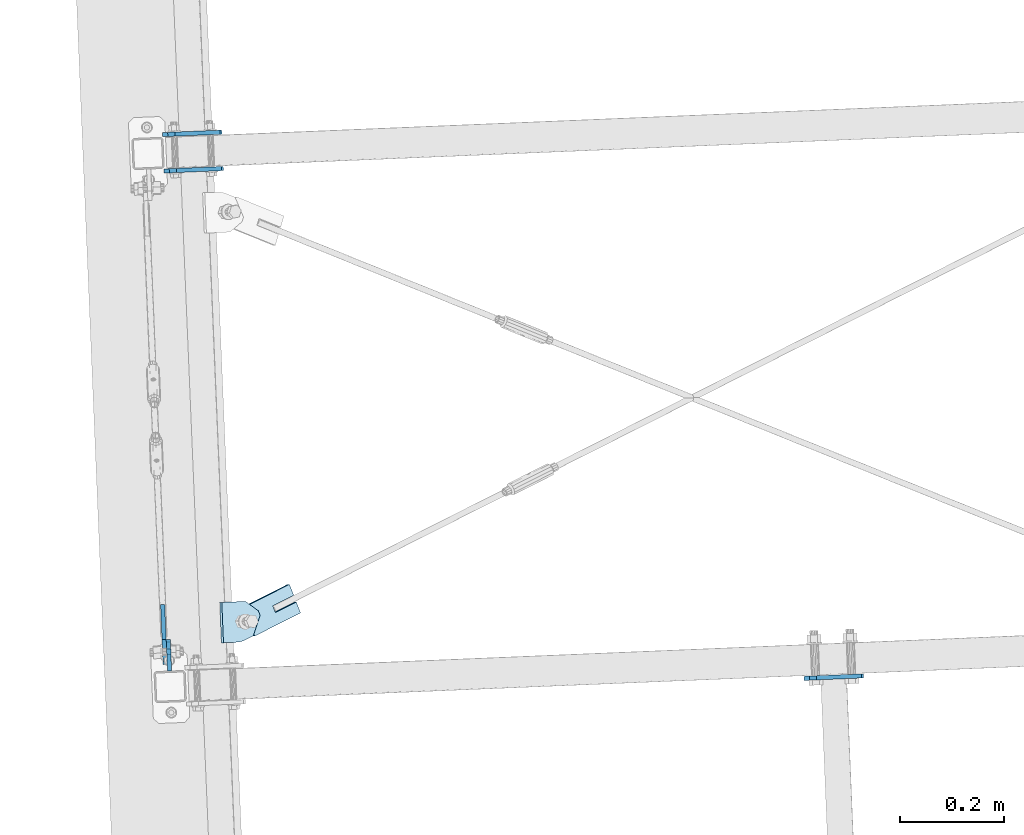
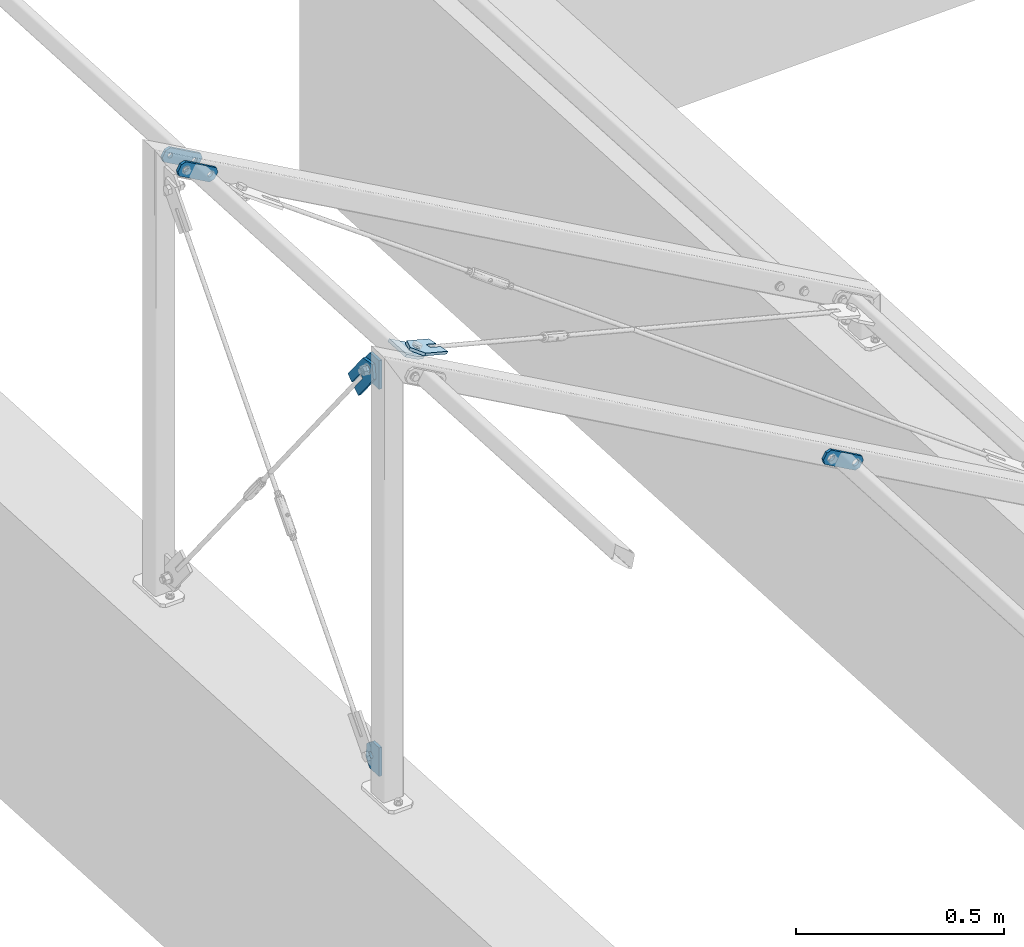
# One storey, part 48 of 288: 8 plates, 34 openings.
"""IFC2X3 building model written with IfcOpenShell, lengths in millimetres."""

from ifc_helpers import new_model, entity, si_unit, converted_unit, point, frame, frame_2d, origin, origin_with_axes, origin_2d_with_axis, place, context, project, spatial, polyline, circle_curve, line_curve, trimmed, segment, composite_curve, circle, outline, extrude, material, layer, layer_set, element, save


model = new_model("IFC2X3")

# Units and contexts
model_context = context("Model", 3, precision=1e-09, world=origin_with_axes())
ifc_project = project(units=[si_unit("LENGTHUNIT", "METRE", prefix="MILLI"), si_unit("AREAUNIT", "SQUARE_METRE"), si_unit("VOLUMEUNIT", "CUBIC_METRE"), converted_unit("PLANEANGLEUNIT", "DEGREE", entity("IfcPlaneAngleMeasure", 0.01745329), si_unit("PLANEANGLEUNIT", "RADIAN"), dimensions=[0, 0, 0, 0, 0, 0, 0])], contexts=[model_context])

# Site, building, storey
site_placement = place(None, origin_with_axes())
site = spatial("IfcSite", under=ifc_project, at=site_placement, Name="Remont ?wietlik?w nad MC w NCPP w Opolu", CompositionType="ELEMENT")
building_placement = place(site_placement, origin_with_axes())
building = spatial("IfcBuilding", under=site, at=building_placement, Name="Konstrukcja 1", CompositionType="ELEMENT")
storey_placement = place(building_placement, origin_with_axes())
storey = spatial("IfcBuildingStorey", under=building, at=storey_placement, Name="Default Storey", CompositionType="ELEMENT", Elevation=0.0)

# Plate, openings
ifc_material = material(Name="S235")
ifc_layer = layer(ifc_material, 8.0)
ifc_layer_set = layer_set([ifc_layer], Name="S235")
plate_1_placement = place(None, frame((-572.617317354, 11318.766140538, 1232.680270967), z_axis=(-0.041662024, 0.999131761, 1.7472e-05), x_axis=(0.499566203, 0.020815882, 0.866025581)))
plate_1 = element("IfcPlate", 1, at=plate_1_placement, inside=storey, material=ifc_layer_set, Name="-", ObjectType="-", context=model_context, shape_type="SweptSolid", body=[
    extrude(outline(polyline([(0.0, 0.0), (40.0, 0.0), (40.0, 120.0), (0.0, 120.0), (0.0, 0.0)])), origin_with_axes(), (0.0, 0.0, 1.0), 8.0),
])
opening_1_placement = place(plate_1_placement, frame((0.0, 0.0, -0.01), z_axis=(0.0, 0.0, 1.0), x_axis=(1.0, 0.0, 0.0)))
element("IfcOpeningElement", 2, at=opening_1_placement, cuts=plate_1, ObjectType="Opening", context=model_context, shape_type="SweptSolid", body=[
    extrude(outline(composite_curve([segment(trimmed(line_curve((40.0, 0.0), (0.0, 1.0), 10.0), [point((40.0, 0.0))], [point((40.0, 10.0))], True, "CARTESIAN"), True, "CONTINUOUS"), segment(trimmed(circle_curve(frame_2d((30.0, 10.0), x_axis=(-1.0, 0.0)), 10.0), [point((40.0, 10.0))], [point((30.0, 0.0))], False, "CARTESIAN"), True, "CONTINUOUS"), segment(trimmed(line_curve((30.0, 0.0), (1.0, 0.0), 10.0), [point((30.0, 0.0))], [point((40.0, 0.0))], True, "CARTESIAN"), True, "CONTINUOUS")], self_intersect=False)), origin(), (0.0, 0.0, 1.0), 8.02),
])
opening_2_placement = place(plate_1_placement, frame((0.0, 0.0, -0.01), z_axis=(0.0, 0.0, 1.0), x_axis=(1.0, 0.0, 0.0)))
element("IfcOpeningElement", 3, at=opening_2_placement, cuts=plate_1, ObjectType="Opening", context=model_context, shape_type="SweptSolid", body=[
    extrude(outline(composite_curve([segment(trimmed(line_curve((0.0, 0.0), (1.0, 0.0), 10.0), [point((0.0, 0.0))], [point((10.0, 0.0))], True, "CARTESIAN"), True, "CONTINUOUS"), segment(trimmed(circle_curve(frame_2d((10.0, 10.0), x_axis=(-1.0, 0.0)), 10.0), [point((10.0, 0.0))], [point((0.0, 10.0))], False, "CARTESIAN"), True, "CONTINUOUS"), segment(trimmed(line_curve((0.0, 10.0), (0.0, -1.0), 10.0), [point((0.0, 10.0))], [point((0.0, 0.0))], True, "CARTESIAN"), True, "CONTINUOUS")], self_intersect=False)), origin(), (0.0, 0.0, 1.0), 8.02),
])
opening_3_placement = place(plate_1_placement, frame((0.0, 0.0, -0.01), z_axis=(0.0, 0.0, 1.0), x_axis=(1.0, 0.0, 0.0)))
element("IfcOpeningElement", 4, at=opening_3_placement, cuts=plate_1, ObjectType="Opening", context=model_context, shape_type="SweptSolid", body=[
    extrude(outline(composite_curve([segment(trimmed(line_curve((40.0, 120.0), (-1.0, 0.0), 10.0), [point((40.0, 120.0))], [point((30.0, 120.0))], True, "CARTESIAN"), True, "CONTINUOUS"), segment(trimmed(circle_curve(frame_2d((30.0, 110.0), x_axis=(-1.0, 0.0)), 10.0), [point((30.0, 120.0))], [point((40.0, 110.0))], False, "CARTESIAN"), True, "CONTINUOUS"), segment(trimmed(line_curve((40.0, 110.0), (0.0, 1.0), 10.0), [point((40.0, 110.0))], [point((40.0, 120.0))], True, "CARTESIAN"), True, "CONTINUOUS")], self_intersect=False)), origin(), (0.0, 0.0, 1.0), 8.02),
])
opening_4_placement = place(plate_1_placement, frame((0.0, 0.0, -0.01), z_axis=(0.0, 0.0, 1.0), x_axis=(1.0, 0.0, 0.0)))
element("IfcOpeningElement", 5, at=opening_4_placement, cuts=plate_1, ObjectType="Opening", context=model_context, shape_type="SweptSolid", body=[
    extrude(outline(composite_curve([segment(trimmed(line_curve((0.0, 120.0), (0.0, -1.0), 10.0), [point((0.0, 120.0))], [point((0.0, 110.0))], True, "CARTESIAN"), True, "CONTINUOUS"), segment(trimmed(circle_curve(frame_2d((10.0, 110.0), x_axis=(-1.0, 0.0)), 10.0), [point((0.0, 110.0))], [point((10.0, 120.0))], False, "CARTESIAN"), True, "CONTINUOUS"), segment(trimmed(line_curve((10.0, 120.0), (-1.0, 0.0), 10.0), [point((10.0, 120.0))], [point((0.0, 120.0))], True, "CARTESIAN"), True, "CONTINUOUS")], self_intersect=False)), origin(), (0.0, 0.0, 1.0), 8.02),
])
opening_5_placement = place(plate_1_placement, frame((19.998425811, 27.001033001, 8.499903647), z_axis=(-2.0054e-05, 4.2e-07, 1.0), x_axis=(1.0, 0.0, 2.0054e-05)))
element("IfcOpeningElement", 6, at=opening_5_placement, cuts=plate_1, ObjectType="Opening", context=model_context, shape_type="SweptSolid", body=[
    extrude(circle(Radius=7.001, at=frame_2d((-4e-09, -7.001), x_axis=(1.0, 0.0))), origin(), (0.0, 0.0, -1.0), 9.000033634),
])
opening_6_placement = place(plate_1_placement, frame((19.998425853, 107.001033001, 8.499870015), z_axis=(-2.0054e-05, 4.2e-07, 1.0), x_axis=(1.0, 0.0, 2.0054e-05)))
element("IfcOpeningElement", 7, at=opening_6_placement, cuts=plate_1, ObjectType="Opening", context=model_context, shape_type="SweptSolid", body=[
    extrude(circle(Radius=7.001, at=frame_2d((-4e-09, -7.001), x_axis=(1.0, 0.0))), origin(), (0.0, 0.0, -1.0), 9.000033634),
])

plate_2_placement = place(None, frame((-569.700975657, 11248.826917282, 1232.679047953), z_axis=(-0.041662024, 0.999131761, 1.7472e-05), x_axis=(0.499566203, 0.020815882, 0.866025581)))
plate_2 = element("IfcPlate", 8, at=plate_2_placement, inside=storey, material=ifc_layer_set, Name="-", ObjectType="-", context=model_context, shape_type="SweptSolid", body=[
    extrude(outline(polyline([(0.0, 0.0), (40.0, 0.0), (40.0, 120.0), (0.0, 120.0), (0.0, 0.0)])), origin_with_axes(), (0.0, 0.0, 1.0), 8.0),
])
opening_7_placement = place(plate_2_placement, frame((0.0, 0.0, -0.01), z_axis=(0.0, 0.0, 1.0), x_axis=(1.0, 0.0, 0.0)))
element("IfcOpeningElement", 9, at=opening_7_placement, cuts=plate_2, ObjectType="Opening", context=model_context, shape_type="SweptSolid", body=[
    extrude(outline(composite_curve([segment(trimmed(line_curve((40.0, 0.0), (0.0, 1.0), 10.0), [point((40.0, 0.0))], [point((40.0, 10.0))], True, "CARTESIAN"), True, "CONTINUOUS"), segment(trimmed(circle_curve(frame_2d((30.0, 10.0), x_axis=(-1.0, 0.0)), 10.0), [point((40.0, 10.0))], [point((30.0, 0.0))], False, "CARTESIAN"), True, "CONTINUOUS"), segment(trimmed(line_curve((30.0, 0.0), (1.0, 0.0), 10.0), [point((30.0, 0.0))], [point((40.0, 0.0))], True, "CARTESIAN"), True, "CONTINUOUS")], self_intersect=False)), origin(), (0.0, 0.0, 1.0), 8.02),
])
opening_8_placement = place(plate_2_placement, frame((0.0, 0.0, -0.01), z_axis=(0.0, 0.0, 1.0), x_axis=(1.0, 0.0, 0.0)))
element("IfcOpeningElement", 10, at=opening_8_placement, cuts=plate_2, ObjectType="Opening", context=model_context, shape_type="SweptSolid", body=[
    extrude(outline(composite_curve([segment(trimmed(line_curve((0.0, 0.0), (1.0, 0.0), 10.0), [point((0.0, 0.0))], [point((10.0, 0.0))], True, "CARTESIAN"), True, "CONTINUOUS"), segment(trimmed(circle_curve(frame_2d((10.0, 10.0), x_axis=(-1.0, 0.0)), 10.0), [point((10.0, 0.0))], [point((0.0, 10.0))], False, "CARTESIAN"), True, "CONTINUOUS"), segment(trimmed(line_curve((0.0, 10.0), (0.0, -1.0), 10.0), [point((0.0, 10.0))], [point((0.0, 0.0))], True, "CARTESIAN"), True, "CONTINUOUS")], self_intersect=False)), origin(), (0.0, 0.0, 1.0), 8.02),
])
opening_9_placement = place(plate_2_placement, frame((0.0, 0.0, -0.01), z_axis=(0.0, 0.0, 1.0), x_axis=(1.0, 0.0, 0.0)))
element("IfcOpeningElement", 11, at=opening_9_placement, cuts=plate_2, ObjectType="Opening", context=model_context, shape_type="SweptSolid", body=[
    extrude(outline(composite_curve([segment(trimmed(line_curve((40.0, 120.0), (-1.0, 0.0), 10.0), [point((40.0, 120.0))], [point((30.0, 120.0))], True, "CARTESIAN"), True, "CONTINUOUS"), segment(trimmed(circle_curve(frame_2d((30.0, 110.0), x_axis=(-1.0, 0.0)), 10.0), [point((30.0, 120.0))], [point((40.0, 110.0))], False, "CARTESIAN"), True, "CONTINUOUS"), segment(trimmed(line_curve((40.0, 110.0), (0.0, 1.0), 10.0), [point((40.0, 110.0))], [point((40.0, 120.0))], True, "CARTESIAN"), True, "CONTINUOUS")], self_intersect=False)), origin(), (0.0, 0.0, 1.0), 8.02),
])
opening_10_placement = place(plate_2_placement, frame((0.0, 0.0, -0.01), z_axis=(0.0, 0.0, 1.0), x_axis=(1.0, 0.0, 0.0)))
element("IfcOpeningElement", 12, at=opening_10_placement, cuts=plate_2, ObjectType="Opening", context=model_context, shape_type="SweptSolid", body=[
    extrude(outline(composite_curve([segment(trimmed(line_curve((0.0, 120.0), (0.0, -1.0), 10.0), [point((0.0, 120.0))], [point((0.0, 110.0))], True, "CARTESIAN"), True, "CONTINUOUS"), segment(trimmed(circle_curve(frame_2d((10.0, 110.0), x_axis=(-1.0, 0.0)), 10.0), [point((0.0, 110.0))], [point((10.0, 120.0))], False, "CARTESIAN"), True, "CONTINUOUS"), segment(trimmed(line_curve((10.0, 120.0), (-1.0, 0.0), 10.0), [point((10.0, 120.0))], [point((0.0, 120.0))], True, "CARTESIAN"), True, "CONTINUOUS")], self_intersect=False)), origin(), (0.0, 0.0, 1.0), 8.02),
])
opening_11_placement = place(plate_2_placement, frame((19.999829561, 27.001003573, 8.499903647), z_axis=(-2.0054e-05, 4.2e-07, 1.0), x_axis=(1.0, 0.0, 2.0054e-05)))
element("IfcOpeningElement", 13, at=opening_11_placement, cuts=plate_2, ObjectType="Opening", context=model_context, shape_type="SweptSolid", body=[
    extrude(circle(Radius=7.001, at=frame_2d((-4e-09, -7.001), x_axis=(1.0, 0.0))), origin(), (0.0, 0.0, -1.0), 9.000033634),
])
opening_12_placement = place(plate_2_placement, frame((19.999829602, 107.001003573, 8.499870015), z_axis=(-2.0054e-05, 4.2e-07, 1.0), x_axis=(1.0, 0.0, 2.0054e-05)))
element("IfcOpeningElement", 14, at=opening_12_placement, cuts=plate_2, ObjectType="Opening", context=model_context, shape_type="SweptSolid", body=[
    extrude(circle(Radius=7.001, at=frame_2d((-4e-09, -7.001), x_axis=(1.0, 0.0))), origin(), (0.0, 0.0, -1.0), 9.000033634),
])

plate_3_placement = place(None, frame((660.794930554, 10273.421751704, 546.473533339), z_axis=(-0.041662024, 0.999131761, 1.7472e-05), x_axis=(0.499566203, 0.020815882, 0.866025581)))
plate_3 = element("IfcPlate", 15, at=plate_3_placement, inside=storey, material=ifc_layer_set, Name="-", ObjectType="-", context=model_context, shape_type="SweptSolid", body=[
    extrude(outline(polyline([(0.0, 0.0), (40.0, 0.0), (40.0, 120.0), (0.0, 120.0), (0.0, 0.0)])), origin_with_axes(), (0.0, 0.0, 1.0), 8.0),
])
opening_13_placement = place(plate_3_placement, frame((0.0, 0.0, -0.01), z_axis=(0.0, 0.0, 1.0), x_axis=(1.0, 0.0, 0.0)))
element("IfcOpeningElement", 16, at=opening_13_placement, cuts=plate_3, ObjectType="Opening", context=model_context, shape_type="SweptSolid", body=[
    extrude(outline(composite_curve([segment(trimmed(line_curve((40.0, 0.0), (0.0, 1.0), 10.0), [point((40.0, 0.0))], [point((40.0, 10.0))], True, "CARTESIAN"), True, "CONTINUOUS"), segment(trimmed(circle_curve(frame_2d((30.0, 10.0), x_axis=(-1.0, 0.0)), 10.0), [point((40.0, 10.0))], [point((30.0, 0.0))], False, "CARTESIAN"), True, "CONTINUOUS"), segment(trimmed(line_curve((30.0, 0.0), (1.0, 0.0), 10.0), [point((30.0, 0.0))], [point((40.0, 0.0))], True, "CARTESIAN"), True, "CONTINUOUS")], self_intersect=False)), origin(), (0.0, 0.0, 1.0), 8.02),
])
opening_14_placement = place(plate_3_placement, frame((0.0, 0.0, -0.01), z_axis=(0.0, 0.0, 1.0), x_axis=(1.0, 0.0, 0.0)))
element("IfcOpeningElement", 17, at=opening_14_placement, cuts=plate_3, ObjectType="Opening", context=model_context, shape_type="SweptSolid", body=[
    extrude(outline(composite_curve([segment(trimmed(line_curve((0.0, 0.0), (1.0, 0.0), 10.0), [point((0.0, 0.0))], [point((10.0, 0.0))], True, "CARTESIAN"), True, "CONTINUOUS"), segment(trimmed(circle_curve(frame_2d((10.0, 10.0), x_axis=(-1.0, 0.0)), 10.0), [point((10.0, 0.0))], [point((0.0, 10.0))], False, "CARTESIAN"), True, "CONTINUOUS"), segment(trimmed(line_curve((0.0, 10.0), (0.0, -1.0), 10.0), [point((0.0, 10.0))], [point((0.0, 0.0))], True, "CARTESIAN"), True, "CONTINUOUS")], self_intersect=False)), origin(), (0.0, 0.0, 1.0), 8.02),
])
opening_15_placement = place(plate_3_placement, frame((0.0, 0.0, -0.01), z_axis=(0.0, 0.0, 1.0), x_axis=(1.0, 0.0, 0.0)))
element("IfcOpeningElement", 18, at=opening_15_placement, cuts=plate_3, ObjectType="Opening", context=model_context, shape_type="SweptSolid", body=[
    extrude(outline(composite_curve([segment(trimmed(line_curve((40.0, 120.0), (-1.0, 0.0), 10.0), [point((40.0, 120.0))], [point((30.0, 120.0))], True, "CARTESIAN"), True, "CONTINUOUS"), segment(trimmed(circle_curve(frame_2d((30.0, 110.0), x_axis=(-1.0, 0.0)), 10.0), [point((30.0, 120.0))], [point((40.0, 110.0))], False, "CARTESIAN"), True, "CONTINUOUS"), segment(trimmed(line_curve((40.0, 110.0), (0.0, 1.0), 10.0), [point((40.0, 110.0))], [point((40.0, 120.0))], True, "CARTESIAN"), True, "CONTINUOUS")], self_intersect=False)), origin(), (0.0, 0.0, 1.0), 8.02),
])
opening_16_placement = place(plate_3_placement, frame((0.0, 0.0, -0.01), z_axis=(0.0, 0.0, 1.0), x_axis=(1.0, 0.0, 0.0)))
element("IfcOpeningElement", 19, at=opening_16_placement, cuts=plate_3, ObjectType="Opening", context=model_context, shape_type="SweptSolid", body=[
    extrude(outline(composite_curve([segment(trimmed(line_curve((0.0, 120.0), (0.0, -1.0), 10.0), [point((0.0, 120.0))], [point((0.0, 110.0))], True, "CARTESIAN"), True, "CONTINUOUS"), segment(trimmed(circle_curve(frame_2d((10.0, 110.0), x_axis=(-1.0, 0.0)), 10.0), [point((0.0, 110.0))], [point((10.0, 120.0))], False, "CARTESIAN"), True, "CONTINUOUS"), segment(trimmed(line_curve((10.0, 120.0), (-1.0, 0.0), 10.0), [point((10.0, 120.0))], [point((0.0, 120.0))], True, "CARTESIAN"), True, "CONTINUOUS")], self_intersect=False)), origin(), (0.0, 0.0, 1.0), 8.02),
])
opening_17_placement = place(plate_3_placement, frame((19.999829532, 29.001003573, 8.499866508), z_axis=(-2.0054e-05, 4.2e-07, 1.0), x_axis=(1.0, 0.0, 2.0054e-05)))
element("IfcOpeningElement", 20, at=opening_17_placement, cuts=plate_3, ObjectType="Opening", context=model_context, shape_type="SweptSolid", body=[
    extrude(circle(Radius=9.001, at=frame_2d((-5e-09, -9.001), x_axis=(1.0, 0.0))), origin(), (0.0, 0.0, -1.0), 9.000033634),
])
opening_18_placement = place(plate_3_placement, frame((19.999829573, 109.001003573, 8.499832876), z_axis=(-2.0054e-05, 4.2e-07, 1.0), x_axis=(1.0, 0.0, 2.0054e-05)))
element("IfcOpeningElement", 21, at=opening_18_placement, cuts=plate_3, ObjectType="Opening", context=model_context, shape_type="SweptSolid", body=[
    extrude(circle(Radius=9.001, at=frame_2d((-5e-09, -9.001), x_axis=(1.0, 0.0))), origin(), (0.0, 0.0, -1.0), 9.000033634),
])

plate_4_placement = place(None, frame((-551.694238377, 10323.873199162, 127.58347587), z_axis=(-0.999131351, -0.041671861, 0.0), x_axis=(-0.03279022, 0.786183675, -0.617122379)))
plate_4 = element("IfcPlate", 22, at=plate_4_placement, inside=storey, material=ifc_layer_set, Name="Gusset#1", ObjectType="Gusset#1", context=model_context, shape_type="SweptSolid", body=[
    extrude(outline(polyline([(0.0, 0.0), (60.0, 0.0), (60.0, 60.0), (26.857400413, 85.993001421), (-25.128602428, 19.707802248), (0.0, 0.0)])), origin_with_axes(), (0.0, 0.0, 1.0), 8.0),
])
opening_19_placement = place(plate_4_placement, frame((30.0, 30.0, -0.5), z_axis=(0.0, 0.0, 1.0), x_axis=(0.0, -1.0, 0.0)))
element("IfcOpeningElement", 23, at=opening_19_placement, cuts=plate_4, ObjectType="Opening", context=model_context, shape_type="SweptSolid", body=[
    extrude(circle(Radius=9.001, at=origin_2d_with_axis()), origin(), (0.0, 0.0, 1.0), 9.0),
])
opening_20_placement = place(plate_4_placement, frame((0.0, 0.0, -0.01), z_axis=(0.0, 0.0, 1.0), x_axis=(1.0, 0.0, 0.0)))
element("IfcOpeningElement", 24, at=opening_20_placement, cuts=plate_4, ObjectType="Opening", context=model_context, shape_type="SweptSolid", body=[
    extrude(outline(composite_curve([segment(trimmed(line_curve((60.0, 0.0), (0.0, 1.0), 30.0), [point((60.0, 0.0))], [point((60.0, 30.0))], True, "CARTESIAN"), True, "CONTINUOUS"), segment(trimmed(circle_curve(frame_2d((30.0, 30.0), x_axis=(-1.0, 0.0)), 30.0), [point((60.0, 30.0))], [point((30.0, 0.0))], False, "CARTESIAN"), True, "CONTINUOUS"), segment(trimmed(line_curve((30.0, 0.0), (1.0, 0.0), 30.0), [point((30.0, 0.0))], [point((60.0, 0.0))], True, "CARTESIAN"), True, "CONTINUOUS")], self_intersect=False)), origin(), (0.0, 0.0, 1.0), 8.02),
])

plate_5_placement = place(None, frame((-563.649795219, 10419.907938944, 1154.259242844), z_axis=(-0.999146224, -0.04131371, 0.0), x_axis=(0.03253731, -0.786894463, -0.616229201)))
plate_5 = element("IfcPlate", 25, at=plate_5_placement, inside=storey, material=ifc_layer_set, Name="Tab_Plate#2", ObjectType="Tab_Plate#2", context=model_context, shape_type="SweptSolid", body=[
    extrude(outline(polyline([(0.0, 0.0), (60.0, 0.0), (60.0, 140.0), (0.0, 140.0), (0.0, 0.0)])), origin_with_axes(), (0.0, 0.0, 1.0), 8.0),
])
opening_21_placement = place(plate_5_placement, frame((0.0, 0.0, -0.01), z_axis=(0.0, 0.0, 1.0), x_axis=(1.0, 0.0, 0.0)))
element("IfcOpeningElement", 26, at=opening_21_placement, cuts=plate_5, ObjectType="Opening", context=model_context, shape_type="SweptSolid", body=[
    extrude(outline(composite_curve([segment(trimmed(line_curve((60.0, 140.0), (-1.0, 0.0), 30.0), [point((60.0, 140.0))], [point((30.0, 140.0))], True, "CARTESIAN"), True, "CONTINUOUS"), segment(trimmed(circle_curve(frame_2d((30.0, 110.0), x_axis=(-1.0, 0.0)), 30.0), [point((30.0, 140.0))], [point((60.0, 110.0))], False, "CARTESIAN"), True, "CONTINUOUS"), segment(trimmed(line_curve((60.0, 110.0), (0.0, 1.0), 30.0), [point((60.0, 110.0))], [point((60.0, 140.0))], True, "CARTESIAN"), True, "CONTINUOUS")], self_intersect=False)), origin(), (0.0, 0.0, 1.0), 8.02),
])
opening_22_placement = place(plate_5_placement, frame((0.0, 0.0, -0.01), z_axis=(0.0, 0.0, 1.0), x_axis=(1.0, 0.0, 0.0)))
element("IfcOpeningElement", 27, at=opening_22_placement, cuts=plate_5, ObjectType="Opening", context=model_context, shape_type="SweptSolid", body=[
    extrude(outline(composite_curve([segment(trimmed(line_curve((0.0, 140.0), (0.0, -1.0), 30.0), [point((0.0, 140.0))], [point((0.0, 110.0))], True, "CARTESIAN"), True, "CONTINUOUS"), segment(trimmed(circle_curve(frame_2d((30.0, 110.0), x_axis=(-1.0, 0.0)), 30.0), [point((0.0, 110.0))], [point((30.0, 140.0))], False, "CARTESIAN"), True, "CONTINUOUS"), segment(trimmed(line_curve((30.0, 140.0), (-1.0, 0.0), 30.0), [point((30.0, 140.0))], [point((0.0, 140.0))], True, "CARTESIAN"), True, "CONTINUOUS")], self_intersect=False)), origin(), (0.0, 0.0, 1.0), 8.02),
])
opening_23_placement = place(plate_5_placement, frame((0.0, 0.0, 8.1), z_axis=(0.0, 0.0, -1.0), x_axis=(-0.787566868, -0.616229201, 0.0)))
element("IfcOpeningElement", 28, at=opening_23_placement, cuts=plate_5, ObjectType="Opening", context=model_context, shape_type="SweptSolid", body=[
    extrude(outline(polyline([(-55.703847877, 33.869711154), (-66.731359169, 25.241269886), (-29.140145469, -22.801884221), (-18.112634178, -14.173442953), (-55.703847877, 33.869711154)])), origin(), (0.0, 0.0, 1.0), 8.2),
])
opening_24_placement = place(plate_5_placement, frame((30.0, 110.0, 8.5), z_axis=(0.0, 0.0, -1.0), x_axis=(0.0, -1.0, 0.0)))
element("IfcOpeningElement", 29, at=opening_24_placement, cuts=plate_5, ObjectType="Opening", context=model_context, shape_type="SweptSolid", body=[
    extrude(circle(Radius=9.001, at=origin_2d_with_axis()), origin(), (0.0, 0.0, 1.0), 9.0),
])

plate_6_placement = place(None, frame((-559.660859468, 10323.438024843, 1180.290840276), z_axis=(0.999146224, 0.04131371, 0.0), x_axis=(-0.03253731, 0.786894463, 0.616229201)))
plate_6 = element("IfcPlate", 30, at=plate_6_placement, inside=storey, material=ifc_layer_set, Name="Gusset#2", ObjectType="Gusset#2", context=model_context, shape_type="SweptSolid", body=[
    extrude(outline(polyline([(0.0, 0.0), (60.0, 0.0), (60.0, 60.0), (26.835889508, 85.94915317), (-25.067718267, 19.614156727), (0.0, 0.0)])), origin_with_axes(), (0.0, 0.0, 1.0), 8.0),
])
opening_25_placement = place(plate_6_placement, frame((30.0, 30.0, -0.5), z_axis=(0.0, 0.0, 1.0), x_axis=(0.0, -1.0, 0.0)))
element("IfcOpeningElement", 31, at=opening_25_placement, cuts=plate_6, ObjectType="Opening", context=model_context, shape_type="SweptSolid", body=[
    extrude(circle(Radius=9.001, at=origin_2d_with_axis()), origin(), (0.0, 0.0, 1.0), 9.0),
])
opening_26_placement = place(plate_6_placement, frame((0.0, 0.0, -0.01), z_axis=(0.0, 0.0, 1.0), x_axis=(1.0, 0.0, 0.0)))
element("IfcOpeningElement", 32, at=opening_26_placement, cuts=plate_6, ObjectType="Opening", context=model_context, shape_type="SweptSolid", body=[
    extrude(outline(composite_curve([segment(trimmed(line_curve((60.0, 0.0), (0.0, 1.0), 30.0), [point((60.0, 0.0))], [point((60.0, 30.0))], True, "CARTESIAN"), True, "CONTINUOUS"), segment(trimmed(circle_curve(frame_2d((30.0, 30.0), x_axis=(-1.0, 0.0)), 30.0), [point((60.0, 30.0))], [point((30.0, 0.0))], False, "CARTESIAN"), True, "CONTINUOUS"), segment(trimmed(line_curve((30.0, 0.0), (1.0, 0.0), 30.0), [point((30.0, 0.0))], [point((60.0, 0.0))], True, "CARTESIAN"), True, "CONTINUOUS")], self_intersect=False)), origin(), (0.0, 0.0, 1.0), 8.02),
])

plate_7_placement = place(None, frame((-306.524472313, 10403.239146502, 1128.673861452), z_axis=(0.500767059, 0.020865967, 0.865330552), x_axis=(-0.354583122, 0.916924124, 0.183087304)))
plate_7 = element("IfcPlate", 33, at=plate_7_placement, inside=storey, material=ifc_layer_set, Name="Tab_Plate#1", ObjectType="Tab_Plate#1", context=model_context, shape_type="SweptSolid", body=[
    extrude(outline(polyline([(0.0, 0.0), (60.0, 0.0), (60.0, 140.0), (0.0, 140.0), (0.0, 0.0)])), origin_with_axes(), (0.0, 0.0, 1.0), 8.0),
])
opening_27_placement = place(plate_7_placement, frame((0.0, 0.0, -0.01), z_axis=(0.0, 0.0, 1.0), x_axis=(1.0, 0.0, 0.0)))
element("IfcOpeningElement", 34, at=opening_27_placement, cuts=plate_7, ObjectType="Opening", context=model_context, shape_type="SweptSolid", body=[
    extrude(outline(composite_curve([segment(trimmed(line_curve((60.0, 140.0), (-1.0, 0.0), 30.0), [point((60.0, 140.0))], [point((30.0, 140.0))], True, "CARTESIAN"), True, "CONTINUOUS"), segment(trimmed(circle_curve(frame_2d((30.0, 110.0), x_axis=(-1.0, 0.0)), 30.0), [point((30.0, 140.0))], [point((60.0, 110.0))], False, "CARTESIAN"), True, "CONTINUOUS"), segment(trimmed(line_curve((60.0, 110.0), (0.0, 1.0), 30.0), [point((60.0, 110.0))], [point((60.0, 140.0))], True, "CARTESIAN"), True, "CONTINUOUS")], self_intersect=False)), origin(), (0.0, 0.0, 1.0), 8.02),
])
opening_28_placement = place(plate_7_placement, frame((0.0, 0.0, -0.01), z_axis=(0.0, 0.0, 1.0), x_axis=(1.0, 0.0, 0.0)))
element("IfcOpeningElement", 35, at=opening_28_placement, cuts=plate_7, ObjectType="Opening", context=model_context, shape_type="SweptSolid", body=[
    extrude(outline(composite_curve([segment(trimmed(line_curve((0.0, 140.0), (0.0, -1.0), 30.0), [point((0.0, 140.0))], [point((0.0, 110.0))], True, "CARTESIAN"), True, "CONTINUOUS"), segment(trimmed(circle_curve(frame_2d((30.0, 110.0), x_axis=(-1.0, 0.0)), 30.0), [point((0.0, 110.0))], [point((30.0, 140.0))], False, "CARTESIAN"), True, "CONTINUOUS"), segment(trimmed(line_curve((30.0, 140.0), (-1.0, 0.0), 30.0), [point((30.0, 140.0))], [point((0.0, 140.0))], True, "CARTESIAN"), True, "CONTINUOUS")], self_intersect=False)), origin(), (0.0, 0.0, 1.0), 8.02),
])
opening_29_placement = place(plate_7_placement, frame((0.0, 6e-09, 8.100000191), z_axis=(0.0, 0.0, -1.0), x_axis=(-0.93089113, 0.365296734, 0.0)))
element("IfcOpeningElement", 36, at=opening_29_placement, cuts=plate_7, ObjectType="Opening", context=model_context, shape_type="SweptSolid", body=[
    extrude(outline(polyline([(-2.779066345, 55.877838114), (-15.813403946, 60.992722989), (-34.444267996, 13.51541358), (-21.409930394, 8.400528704), (-2.779066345, 55.877838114)])), origin(), (0.0, 0.0, 1.0), 8.200000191),
])
opening_30_placement = place(plate_7_placement, frame((30.0, 119.000999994, -0.5), z_axis=(0.0, 0.0, -1.0), x_axis=(-1.0, 0.0, 0.0)))
element("IfcOpeningElement", 37, at=opening_30_placement, cuts=plate_7, ObjectType="Opening", context=model_context, shape_type="SweptSolid", body=[
    extrude(circle(Radius=9.001, at=frame_2d((0.0, -9.001), x_axis=(1.0, 0.0))), origin(), (0.0, 0.0, -1.0), 9.0),
])

plate_8_placement = place(None, frame((-390.969232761, 10426.373337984, 1176.984229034), z_axis=(-0.500767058, -0.020865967, -0.865330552), x_axis=(0.354583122, -0.916924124, -0.183087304)))
plate_8 = element("IfcPlate", 38, at=plate_8_placement, inside=storey, material=ifc_layer_set, Name="Gusset#1", ObjectType="Gusset#1", context=model_context, shape_type="SweptSolid", body=[
    extrude(outline(polyline([(0.0, 0.0), (60.0, 0.0), (60.0, 60.0), (45.80276769, 96.18272858), (-26.593708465, 67.776092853), (0.0, 0.0)])), origin_with_axes(), (0.0, 0.0, 1.0), 8.0),
])
opening_31_placement = place(plate_8_placement, frame((30.0, 39.000999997, 8.5), z_axis=(0.0, 0.0, 1.0), x_axis=(1.0, 0.0, 0.0)))
element("IfcOpeningElement", 39, at=opening_31_placement, cuts=plate_8, ObjectType="Opening", context=model_context, shape_type="SweptSolid", body=[
    extrude(circle(Radius=9.001, at=frame_2d((0.0, -9.001), x_axis=(1.0, 0.0))), origin(), (0.0, 0.0, -1.0), 9.0),
])
opening_32_placement = place(plate_8_placement, frame((0.0, 0.0, -0.01), z_axis=(0.0, 0.0, 1.0), x_axis=(1.0, 0.0, 0.0)))
element("IfcOpeningElement", 40, at=opening_32_placement, cuts=plate_8, ObjectType="Opening", context=model_context, shape_type="SweptSolid", body=[
    extrude(outline(composite_curve([segment(trimmed(line_curve((0.0, 0.0), (1.0, 0.0), 20.455465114), [point((0.0, 0.0))], [point((20.455465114, 0.0))], True, "CARTESIAN"), True, "CONTINUOUS"), segment(trimmed(circle_curve(frame_2d((20.455465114, 30.0), x_axis=(-1.0, 0.0)), 30.0), [point((20.455465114, 0.0))], [point((-7.471650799, 19.04207151))], False, "CARTESIAN"), True, "CONTINUOUS"), segment(trimmed(line_curve((-7.471650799, 19.04207151), (0.365264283, -0.930903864), 20.455465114), [point((-7.471650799, 19.04207151))], [point((0.0, 0.0))], True, "CARTESIAN"), True, "CONTINUOUS")], self_intersect=False)), origin(), (0.0, 0.0, 1.0), 8.02),
])
opening_33_placement = place(plate_8_placement, frame((0.0, 0.0, -0.01), z_axis=(0.0, 0.0, 1.0), x_axis=(1.0, 0.0, 0.0)))
element("IfcOpeningElement", 41, at=opening_33_placement, cuts=plate_8, ObjectType="Opening", context=model_context, shape_type="SweptSolid", body=[
    extrude(outline(composite_curve([segment(trimmed(line_curve((60.0, 0.0), (0.0, 1.0), 30.0), [point((60.0, 0.0))], [point((60.0, 30.0))], True, "CARTESIAN"), True, "CONTINUOUS"), segment(trimmed(circle_curve(frame_2d((30.0, 30.0), x_axis=(-1.0, 0.0)), 30.0), [point((60.0, 30.0))], [point((30.0, 0.0))], False, "CARTESIAN"), True, "CONTINUOUS"), segment(trimmed(line_curve((30.0, 0.0), (1.0, 0.0), 30.0), [point((30.0, 0.0))], [point((60.0, 0.0))], True, "CARTESIAN"), True, "CONTINUOUS")], self_intersect=False)), origin(), (0.0, 0.0, 1.0), 8.02),
])
opening_34_placement = place(plate_8_placement, frame((0.0, 0.0, -0.01), z_axis=(0.0, 0.0, 1.0), x_axis=(1.0, 0.0, 0.0)))
element("IfcOpeningElement", 42, at=opening_34_placement, cuts=plate_8, ObjectType="Opening", context=model_context, shape_type="SweptSolid", body=[
    extrude(outline(composite_curve([segment(trimmed(line_curve((60.0, 60.0), (-0.365264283, 0.930903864), 5.67502541), [point((60.0, 60.0))], [point((57.927115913, 65.282903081))], True, "CARTESIAN"), True, "CONTINUOUS"), segment(trimmed(circle_curve(frame_2d((30.0, 54.32497459), x_axis=(-1.0, 0.0)), 30.0), [point((57.927115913, 65.282903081))], [point((60.0, 54.32497459))], False, "CARTESIAN"), True, "CONTINUOUS"), segment(trimmed(line_curve((60.0, 54.32497459), (0.0, 1.0), 5.67502541), [point((60.0, 54.32497459))], [point((60.0, 60.0))], True, "CARTESIAN"), True, "CONTINUOUS")], self_intersect=False)), origin(), (0.0, 0.0, 1.0), 8.02),
])

save(model, "model.ifc")
